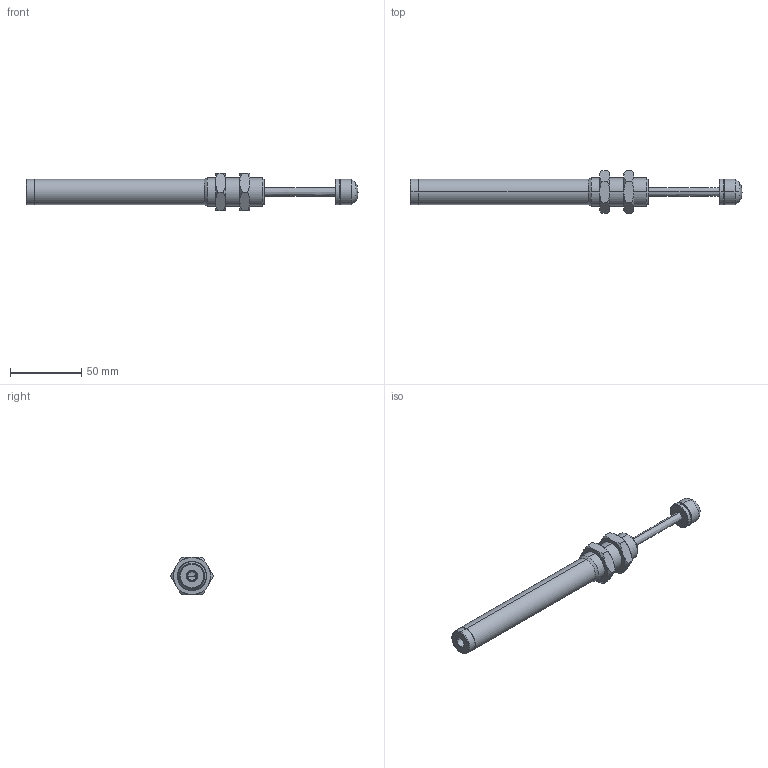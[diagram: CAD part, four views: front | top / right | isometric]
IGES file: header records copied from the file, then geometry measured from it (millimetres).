
Start section: SolidWorks IGES file using analytic representation for surfaces
Global section: file name: D:\IGS跡宒\AC2050(BY)-SH.IGS,1; native system: 5HSolidWorks 2013; preprocessor: SolidWorks 2013; author: Administrator; date: 160406.152134; units: inch
Bounding box: 232.8 x 30.02 x 26 mm (x, y, z)
Surface area: 19431.4 mm2 (no closed solid volume)
Topology: 0 solids, 0 shells, 104 faces, 1588 edges, 1587 vertices
Faces by surface type: revolution 80, bspline 24
